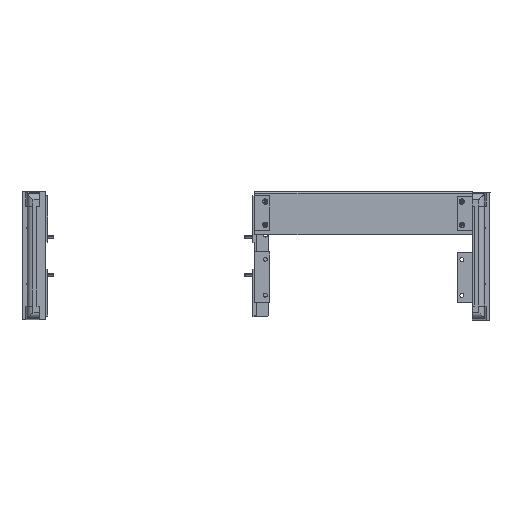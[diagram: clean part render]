
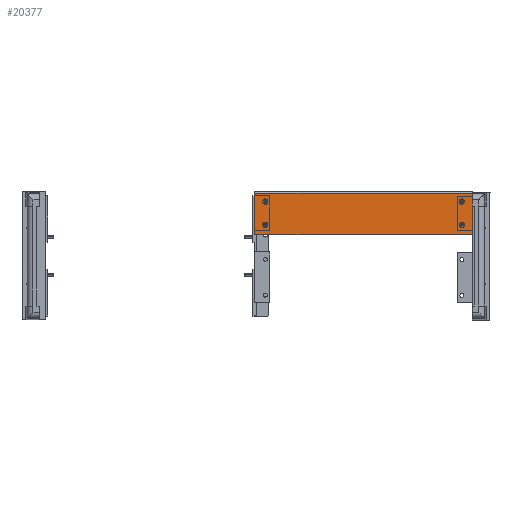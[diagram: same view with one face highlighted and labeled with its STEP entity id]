
A CAD part, top view. The second image highlights one B-rep face of the part: STEP entity #20377.
In plain terms, the highlighted planar face has unit normal (0, 0, 1).
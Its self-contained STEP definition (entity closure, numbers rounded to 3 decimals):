
#132 = ORIENTED_EDGE ( 'NONE', *, *, #15834, .F. ) ;
#171 = DIRECTION ( 'NONE',  ( -1., 0., 0. ) ) ;
#493 = ORIENTED_EDGE ( 'NONE', *, *, #5063, .T. ) ;
#760 = DIRECTION ( 'NONE',  ( 1., 0., 0. ) ) ;
#1049 = VERTEX_POINT ( 'NONE', #21440 ) ;
#1127 = ORIENTED_EDGE ( 'NONE', *, *, #6765, .F. ) ;
#1441 = CARTESIAN_POINT ( 'NONE',  ( 206., -44., 0. ) ) ;
#1701 = AXIS2_PLACEMENT_3D ( 'NONE', #21057, #12334, #171 ) ;
#1735 = VERTEX_POINT ( 'NONE', #4570 ) ;
#2016 = FACE_BOUND ( 'NONE', #15624, .T. ) ;
#2665 = CARTESIAN_POINT ( 'NONE',  ( 10.7, -34., 0. ) ) ;
#2823 = EDGE_CURVE ( 'NONE', #5381, #1735, #6475, .T. ) ;
#3108 = CARTESIAN_POINT ( 'NONE',  ( 8.7, -10., 0. ) ) ;
#3476 = CIRCLE ( 'NONE', #17022, 2. ) ;
#3727 = CIRCLE ( 'NONE', #12478, 2. ) ;
#3730 = VERTEX_POINT ( 'NONE', #3887 ) ;
#3887 = CARTESIAN_POINT ( 'NONE',  ( 215.3, -10., 0. ) ) ;
#3994 = CIRCLE ( 'NONE', #9486, 2. ) ;
#4050 = CARTESIAN_POINT ( 'NONE',  ( 213.3, -10., 0. ) ) ;
#4322 = VECTOR ( 'NONE', #20434, 1000. ) ;
#4430 = VERTEX_POINT ( 'NONE', #3108 ) ;
#4570 = CARTESIAN_POINT ( 'NONE',  ( 0., -1.6, 0. ) ) ;
#5063 = EDGE_CURVE ( 'NONE', #1735, #22639, #8976, .T. ) ;
#5335 = CARTESIAN_POINT ( 'NONE',  ( 10.7, -10., 0. ) ) ;
#5381 = VERTEX_POINT ( 'NONE', #7826 ) ;
#5486 = FACE_BOUND ( 'NONE', #18023, .T. ) ;
#5826 = EDGE_CURVE ( 'NONE', #1049, #7405, #12055, .T. ) ;
#6475 = LINE ( 'NONE', #15280, #4322 ) ;
#6640 = AXIS2_PLACEMENT_3D ( 'NONE', #18708, #15274, #22251 ) ;
#6662 = ORIENTED_EDGE ( 'NONE', *, *, #17625, .F. ) ;
#6765 = EDGE_CURVE ( 'NONE', #16649, #8652, #20885, .T. ) ;
#6918 = CARTESIAN_POINT ( 'NONE',  ( 0., -44., 0. ) ) ;
#7150 = ORIENTED_EDGE ( 'NONE', *, *, #5826, .F. ) ;
#7272 = DIRECTION ( 'NONE',  ( 1., 0., 0. ) ) ;
#7405 = VERTEX_POINT ( 'NONE', #21408 ) ;
#7741 = AXIS2_PLACEMENT_3D ( 'NONE', #4050, #14371, #7272 ) ;
#7799 = EDGE_CURVE ( 'NONE', #22639, #18941, #10162, .T. ) ;
#7826 = CARTESIAN_POINT ( 'NONE',  ( 224., -1.6, 0. ) ) ;
#8408 = CARTESIAN_POINT ( 'NONE',  ( 10.7, -10., 0. ) ) ;
#8466 = DIRECTION ( 'NONE',  ( 1., 0., 0. ) ) ;
#8484 = VERTEX_POINT ( 'NONE', #21792 ) ;
#8652 = VERTEX_POINT ( 'NONE', #20987 ) ;
#8704 = FACE_OUTER_BOUND ( 'NONE', #19976, .T. ) ;
#8923 = PLANE ( 'NONE',  #1701 ) ;
#8976 = LINE ( 'NONE', #20776, #11344 ) ;
#9486 = AXIS2_PLACEMENT_3D ( 'NONE', #19292, #14151, #10703 ) ;
#9701 = ORIENTED_EDGE ( 'NONE', *, *, #19030, .F. ) ;
#10162 = LINE ( 'NONE', #1441, #11393 ) ;
#10703 = DIRECTION ( 'NONE',  ( 1., 0., 0. ) ) ;
#11344 = VECTOR ( 'NONE', #14242, 1000. ) ;
#11368 = CIRCLE ( 'NONE', #7741, 2. ) ;
#11393 = VECTOR ( 'NONE', #8466, 1000. ) ;
#12055 = CIRCLE ( 'NONE', #22304, 2. ) ;
#12299 = DIRECTION ( 'NONE',  ( 0., 0., 1. ) ) ;
#12334 = DIRECTION ( 'NONE',  ( 0., 0., -1. ) ) ;
#12360 = DIRECTION ( 'NONE',  ( 0., 1., 0. ) ) ;
#12478 = AXIS2_PLACEMENT_3D ( 'NONE', #8408, #22240, #13678 ) ;
#12684 = CARTESIAN_POINT ( 'NONE',  ( 213.3, -10., 0. ) ) ;
#12720 = CARTESIAN_POINT ( 'NONE',  ( 211.3, -34., 0. ) ) ;
#13047 = ORIENTED_EDGE ( 'NONE', *, *, #19768, .F. ) ;
#13050 = ORIENTED_EDGE ( 'NONE', *, *, #18225, .T. ) ;
#13143 = CARTESIAN_POINT ( 'NONE',  ( 10.7, -34., 0. ) ) ;
#13551 = DIRECTION ( 'NONE',  ( 1., 0., 0. ) ) ;
#13603 = DIRECTION ( 'NONE',  ( 1., 0., 0. ) ) ;
#13678 = DIRECTION ( 'NONE',  ( 1., 0., 0. ) ) ;
#13775 = AXIS2_PLACEMENT_3D ( 'NONE', #5335, #12299, #19287 ) ;
#14071 = FACE_BOUND ( 'NONE', #21707, .T. ) ;
#14151 = DIRECTION ( 'NONE',  ( 0., 0., 1. ) ) ;
#14242 = DIRECTION ( 'NONE',  ( 0., -1., 0. ) ) ;
#14301 = CIRCLE ( 'NONE', #19042, 2. ) ;
#14312 = DIRECTION ( 'NONE',  ( 0., 0., 1. ) ) ;
#14371 = DIRECTION ( 'NONE',  ( 0., 0., 1. ) ) ;
#14641 = EDGE_CURVE ( 'NONE', #3730, #8484, #14301, .T. ) ;
#15274 = DIRECTION ( 'NONE',  ( 0., 0., 1. ) ) ;
#15280 = CARTESIAN_POINT ( 'NONE',  ( 224., -1.6, 0. ) ) ;
#15445 = EDGE_CURVE ( 'NONE', #8484, #3730, #11368, .T. ) ;
#15525 = CARTESIAN_POINT ( 'NONE',  ( 224., -44., 0. ) ) ;
#15624 = EDGE_LOOP ( 'NONE', ( #9701, #1127 ) ) ;
#15834 = EDGE_CURVE ( 'NONE', #16820, #4430, #3727, .T. ) ;
#16023 = CARTESIAN_POINT ( 'NONE',  ( 224., -44., 0. ) ) ;
#16649 = VERTEX_POINT ( 'NONE', #12720 ) ;
#16820 = VERTEX_POINT ( 'NONE', #21774 ) ;
#17022 = AXIS2_PLACEMENT_3D ( 'NONE', #2665, #18803, #13551 ) ;
#17149 = DIRECTION ( 'NONE',  ( 0., 0., 1. ) ) ;
#17625 = EDGE_CURVE ( 'NONE', #7405, #1049, #3476, .T. ) ;
#17959 = LINE ( 'NONE', #16023, #22542 ) ;
#18023 = EDGE_LOOP ( 'NONE', ( #6662, #7150 ) ) ;
#18225 = EDGE_CURVE ( 'NONE', #18941, #5381, #17959, .T. ) ;
#18708 = CARTESIAN_POINT ( 'NONE',  ( 213.3, -34., 0. ) ) ;
#18803 = DIRECTION ( 'NONE',  ( 0., 0., 1. ) ) ;
#18941 = VERTEX_POINT ( 'NONE', #15525 ) ;
#19030 = EDGE_CURVE ( 'NONE', #8652, #16649, #3994, .T. ) ;
#19042 = AXIS2_PLACEMENT_3D ( 'NONE', #12684, #14312, #760 ) ;
#19202 = FACE_BOUND ( 'NONE', #19296, .T. ) ;
#19287 = DIRECTION ( 'NONE',  ( 1., 0., 0. ) ) ;
#19292 = CARTESIAN_POINT ( 'NONE',  ( 213.3, -34., 0. ) ) ;
#19296 = EDGE_LOOP ( 'NONE', ( #21040, #20726 ) ) ;
#19768 = EDGE_CURVE ( 'NONE', #4430, #16820, #19971, .T. ) ;
#19971 = CIRCLE ( 'NONE', #13775, 2. ) ;
#19976 = EDGE_LOOP ( 'NONE', ( #21327, #493, #20581, #13050 ) ) ;
#20377 = ADVANCED_FACE ( 'NONE', ( #19202, #2016, #14071, #5486, #8704 ), #8923, .F. ) ;
#20434 = DIRECTION ( 'NONE',  ( -1., 0., 0. ) ) ;
#20581 = ORIENTED_EDGE ( 'NONE', *, *, #7799, .T. ) ;
#20726 = ORIENTED_EDGE ( 'NONE', *, *, #15445, .F. ) ;
#20776 = CARTESIAN_POINT ( 'NONE',  ( 0., 0., 0. ) ) ;
#20885 = CIRCLE ( 'NONE', #6640, 2. ) ;
#20987 = CARTESIAN_POINT ( 'NONE',  ( 215.3, -34., 0. ) ) ;
#21040 = ORIENTED_EDGE ( 'NONE', *, *, #14641, .F. ) ;
#21057 = CARTESIAN_POINT ( 'NONE',  ( 0., 0., 0. ) ) ;
#21327 = ORIENTED_EDGE ( 'NONE', *, *, #2823, .T. ) ;
#21408 = CARTESIAN_POINT ( 'NONE',  ( 12.7, -34., 0. ) ) ;
#21440 = CARTESIAN_POINT ( 'NONE',  ( 8.7, -34., 0. ) ) ;
#21707 = EDGE_LOOP ( 'NONE', ( #132, #13047 ) ) ;
#21774 = CARTESIAN_POINT ( 'NONE',  ( 12.7, -10., 0. ) ) ;
#21792 = CARTESIAN_POINT ( 'NONE',  ( 211.3, -10., 0. ) ) ;
#22240 = DIRECTION ( 'NONE',  ( 0., 0., 1. ) ) ;
#22251 = DIRECTION ( 'NONE',  ( 1., 0., 0. ) ) ;
#22304 = AXIS2_PLACEMENT_3D ( 'NONE', #13143, #17149, #13603 ) ;
#22542 = VECTOR ( 'NONE', #12360, 1000. ) ;
#22639 = VERTEX_POINT ( 'NONE', #6918 ) ;
